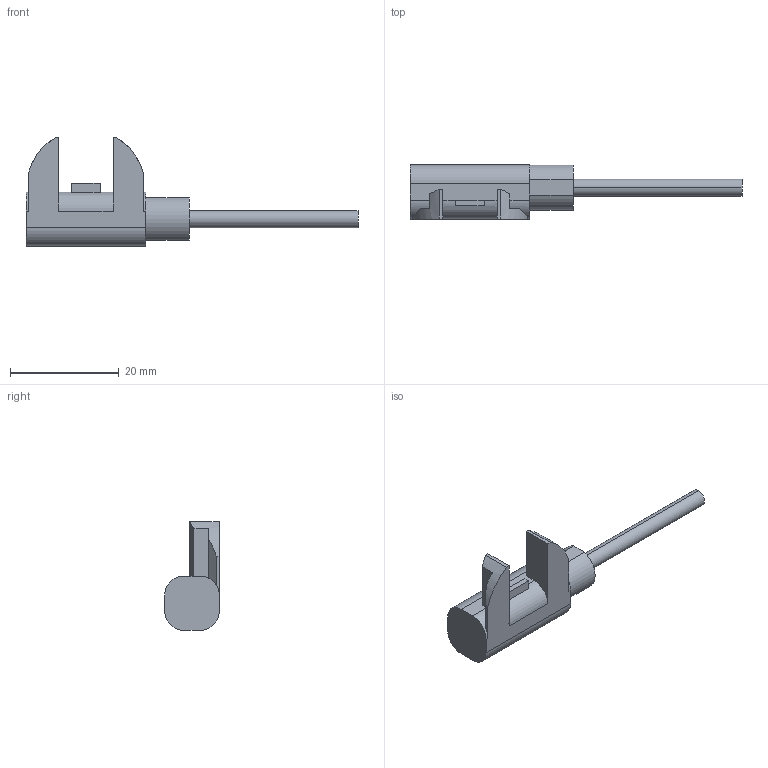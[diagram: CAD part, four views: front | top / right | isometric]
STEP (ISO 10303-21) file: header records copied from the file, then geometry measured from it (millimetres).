
FILE_DESCRIPTION (( 'STEP AP203' ), '1' );
FILE_NAME ('FD-F705.STEP', '2005-11-09T07:58:49', ( '' ), ( '' ), 'SwSTEP 2.0', 'SolidWorks 2004073', '' );
FILE_SCHEMA (( 'CONFIG_CONTROL_DESIGN' ));
Length unit declared in the file: millimetre
Products named in the file (1): FD-F705
Bounding box: 61 x 10 x 20 mm (x, y, z)
Volume: 2968.3 mm3; surface area: 1845.3 mm2
Topology: 1 solids, 1 shells, 48 faces, 125 edges, 82 vertices
Faces by surface type: plane 36, cylinder 12
Entity records: 1542 total; most frequent: CARTESIAN_POINT 274, ORIENTED_EDGE 250, DIRECTION 245, EDGE_CURVE 125, LINE 91, VECTOR 91, VERTEX_POINT 82, AXIS2_PLACEMENT_3D 77
